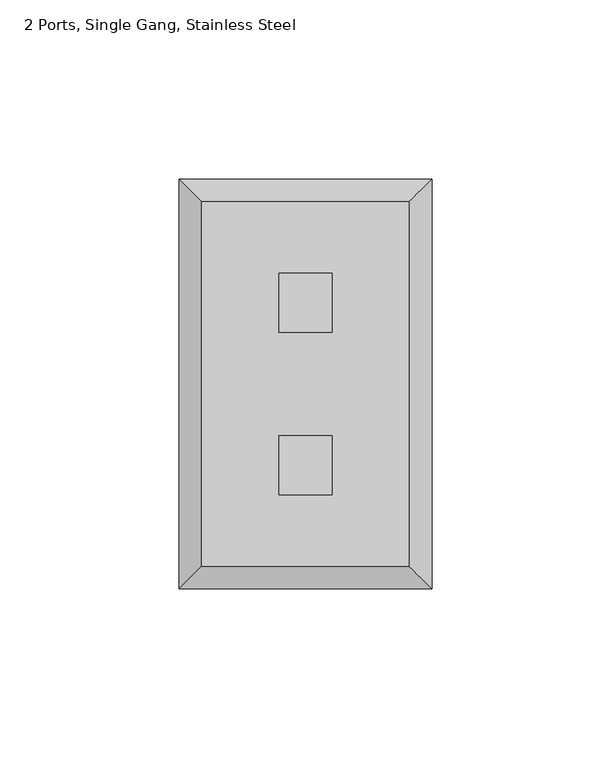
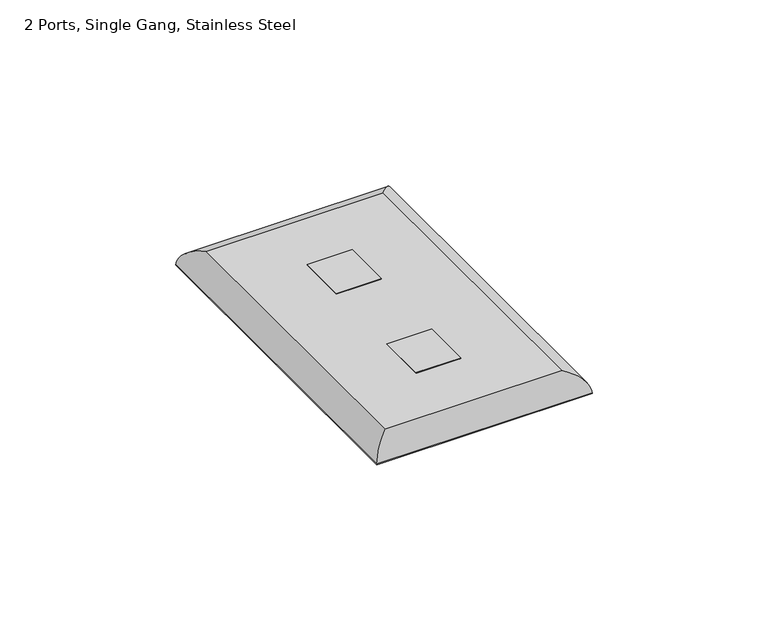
"""IFC4 building model written with IfcOpenShell, lengths in millimetres: electric appliance geometry, Data_Device-Work_Area-Leviton-QuickPort-Wallplate : 2 Ports, Single Gang, Stainless Steel."""

from ifc_helpers import new_model, si_unit, frame, origin, origin_with_axes, place, context, project, spatial, polyline, ellipse_curve, outline, extrude, source, transform, mapped, element, save
from ifc_brep_helpers import plane_surface, cylinder_surface, advanced_brep


def electric_appliance_2_ports_single_gang_stainless_steel_04aa31db(model_context):
    return source(origin(), model_context, "Body", "SolidModel", [
        extrude(outline(polyline([(-15.6591, 39.1414), (-15.6591, 22.6314), (-30.3911, 22.6314), (-30.3911, 39.1414), (-15.6591, 39.1414)])), origin_with_axes(), (0.0, 0.0, 1.0), 6.35),
        extrude(outline(polyline([(-15.6591, -22.7584), (-30.3911, -22.7584), (-30.3911, -6.2484), (-15.6591, -6.2484), (-15.6591, -22.7584)])), origin_with_axes(), (0.0, 0.0, 1.0), 6.35),
        advanced_brep(
        [(5.9309, -42.6085, 6.35), (5.9309, 58.9915, 6.35), (-51.9811, 58.9915, 6.35), (-51.9811, -42.6085, 6.35), (-30.3911, 39.1414, 6.35), (-15.6591, 39.1414, 6.35), (-15.6591, 22.6314, 6.35), (-30.3911, 22.6314, 6.35), (-30.3911, -6.2484, 6.35), (-15.6591, -6.2484, 6.35), (-15.6591, -22.7584, 6.35), (-30.3911, -22.7584, 6.35), (12.2809, 65.3415, 0.0), (12.2809, -48.9585, 0.0), (-58.3311, -48.9585, 0.0), (-58.3311, 65.3415, 0.0), (-15.6591, 39.1414, 0.0), (-30.3911, 39.1414, 0.0), (-30.3911, 22.6314, 0.0), (-15.6591, 22.6314, 0.0), (-15.6591, -6.2484, 0.0), (-30.3911, -6.2484, 0.0), (-30.3911, -22.7584, 0.0), (-15.6591, -22.7584, 0.0), (-58.3311, 65.3415, 0.254), (12.2809, 65.3415, 0.254), (-58.3311, -48.9585, 0.254), (12.2809, -48.9585, 0.254)],
        [
            (0, 1),
            (1, 2),
            (2, 3),
            (3, 0),
            (4, 5),
            (5, 6),
            (6, 7),
            (7, 4),
            (8, 9),
            (9, 10),
            (10, 11),
            (11, 8),
            (12, 13),
            (13, 14),
            (14, 15),
            (15, 12),
            (16, 17),
            (17, 18),
            (18, 19),
            (19, 16),
            (20, 21),
            (21, 22),
            (22, 23),
            (23, 20),
            (15, 24),
            (24, 25),
            (25, 12),
            (14, 26),
            (26, 24),
            (13, 27),
            (27, 26),
            (25, 27),
            (4, 17),
            (16, 5),
            (7, 18),
            (6, 19),
            (8, 21),
            (20, 9),
            (11, 22),
            (10, 23),
            (0, 27, ellipse_curve(frame((5.9309, -42.6085, -0.0052917), z_axis=(0.7071067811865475, 0.7071067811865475, 0.0), x_axis=(0.7071067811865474, -0.7071067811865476, 0.0)), 8.9877397, 6.3552917)),
            (25, 1, ellipse_curve(frame((5.9309, 58.9915, -0.0052917), z_axis=(0.7071067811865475, -0.7071067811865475, 0.0), x_axis=(-0.7071067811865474, -0.7071067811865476, 0.0)), 8.9877397, 6.3552917)),
            (3, 26, ellipse_curve(frame((-51.9811, -42.6085, -0.0052917), z_axis=(0.7071067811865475, -0.7071067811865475, 0.0), x_axis=(-0.7071067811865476, -0.7071067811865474, 0.0)), 8.9877397, 6.3552917)),
            (2, 24, ellipse_curve(frame((-51.9811, 58.9915, -0.0052917), z_axis=(-0.7071067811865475, -0.7071067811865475, 0.0), x_axis=(-0.7071067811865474, 0.7071067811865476, 0.0)), 8.9877397, 6.3552917)),
        ],
        [
            plane_surface(frame((-58.3311, 65.3415, 6.35), z_axis=(0.0, 0.0, 1.0), x_axis=(-1.0, 0.0, 0.0))),
            plane_surface(frame((-58.3311, 65.3415, 0.0), z_axis=(0.0, 0.0, -1.0), x_axis=(1.0, 0.0, 0.0))),
            plane_surface(frame((12.2809, 65.3415, 6.35), z_axis=(0.0, 1.0, 0.0), x_axis=(0.0, 0.0, -1.0))),
            plane_surface(frame((-58.3311, 65.3415, 6.35), z_axis=(-1.0, 0.0, 0.0), x_axis=(0.0, 0.0, -1.0))),
            plane_surface(frame((-58.3311, -48.9585, 6.35), z_axis=(0.0, -1.0, 0.0), x_axis=(0.0, 0.0, -1.0))),
            plane_surface(frame((12.2809, -48.9585, 6.35), z_axis=(1.0, 0.0, 0.0), x_axis=(0.0, 0.0, -1.0))),
            plane_surface(frame((-15.6591, 39.1414, 6.35), z_axis=(0.0, -1.0, 0.0), x_axis=(0.0, 0.0, -1.0))),
            plane_surface(frame((-30.3911, 39.1414, 6.35), z_axis=(1.0, 0.0, 0.0), x_axis=(0.0, 0.0, -1.0))),
            plane_surface(frame((-30.3911, 22.6314, 6.35), z_axis=(0.0, 1.0, 0.0), x_axis=(0.0, 0.0, -1.0))),
            plane_surface(frame((-15.6591, 22.6314, 6.35), z_axis=(-1.0, 0.0, 0.0), x_axis=(0.0, 0.0, -1.0))),
            plane_surface(frame((-15.6591, -6.2484, 6.35), z_axis=(0.0, -1.0, 0.0), x_axis=(0.0, 0.0, -1.0))),
            plane_surface(frame((-30.3911, -6.2484, 6.35), z_axis=(1.0, 0.0, 0.0), x_axis=(0.0, 0.0, -1.0))),
            plane_surface(frame((-30.3911, -22.7584, 6.35), z_axis=(0.0, 1.0, 0.0), x_axis=(0.0, 0.0, -1.0))),
            plane_surface(frame((-15.6591, -22.7584, 6.35), z_axis=(-1.0, 0.0, 0.0), x_axis=(0.0, 0.0, -1.0))),
            cylinder_surface(frame((5.9309, 65.3415, -0.0052917), z_axis=(0.0, -1.0, 0.0), x_axis=(1.0, 0.0, 0.0)), 6.3552917),
            cylinder_surface(frame((12.2809, -42.6085, -0.0052917), z_axis=(-1.0, 0.0, 0.0), x_axis=(0.0, -1.0, 0.0)), 6.3552917),
            cylinder_surface(frame((-51.9811, -48.9585, -0.0052917), z_axis=(0.0, 1.0, 0.0), x_axis=(-1.0, 0.0, 0.0)), 6.3552917),
            cylinder_surface(frame((-58.3311, 58.9915, -0.0052917), z_axis=(1.0, 0.0, 0.0), x_axis=(0.0, 1.0, 0.0)), 6.3552917),
        ],
        [
            (0, [[1, 2, 3, 4], [5, 6, 7, 8], [9, 10, 11, 12]]),
            (1, [[13, 14, 15, 16], [17, 18, 19, 20], [21, 22, 23, 24]]),
            (2, [[-16, 25, 26, 27]]),
            (3, [[-15, 28, 29, -25]]),
            (4, [[-14, 30, 31, -28]]),
            (5, [[-13, -27, 32, -30]]),
            (6, [[33, -17, 34, -5]]),
            (7, [[-33, -8, 35, -18]]),
            (8, [[-35, -7, 36, -19]]),
            (9, [[-34, -20, -36, -6]]),
            (10, [[37, -21, 38, -9]]),
            (11, [[-37, -12, 39, -22]]),
            (12, [[-39, -11, 40, -23]]),
            (13, [[-38, -24, -40, -10]]),
            (14, [[41, -32, 42, -1]]),
            (15, [[-41, -4, 43, -31]]),
            (16, [[-43, -3, 44, -29]]),
            (17, [[-42, -26, -44, -2]]),
        ],
    ),
        extrude(outline(polyline([(12.0269, 65.0875), (12.0269, -48.7045), (-58.0771, -48.7045), (-58.0771, 65.0875), (12.0269, 65.0875)]), holes=[polyline([(-15.6591, 39.1414), (-30.3911, 39.1414), (-30.3911, 22.6314), (-15.6591, 22.6314), (-15.6591, 39.1414)]), polyline([(-15.6591, -6.2484), (-30.3911, -6.2484), (-30.3911, -22.7584), (-15.6591, -22.7584), (-15.6591, -6.2484)])]), origin_with_axes(), (0.0, 0.0, 1.0), 0.254),
    ])


if __name__ == "__main__":
    model = new_model("IFC4")
    model_context = context("Model", 3, world=origin())
    ifc_project = project(units=[si_unit("LENGTHUNIT", "METRE", prefix="MILLI")], contexts=[model_context])
    site = spatial("IfcSite", under=ifc_project)
    building = spatial("IfcBuilding", under=site)
    placement = place(None, origin())
    electric_appliance_2_ports_single_gang_stainless_steel_shape = electric_appliance_2_ports_single_gang_stainless_steel_04aa31db(model_context)
    element("IfcElectricAppliance", 1, ObjectType="Data_Device-Work_Area-Leviton-QuickPort-Wallplate : 2 Ports, Single Gang, Stainless Steel", at=placement, inside=building, context=model_context, shape_type="MappedRepresentation", body=[
        mapped(electric_appliance_2_ports_single_gang_stainless_steel_shape, transform((0.0, 0.0, 0.0), x_axis=(1.0, 0.0, 0.0), y_axis=(0.0, 1.0, 0.0), z_axis=(0.0, 0.0, 1.0))),
    ])
    save(model, "model.ifc")
